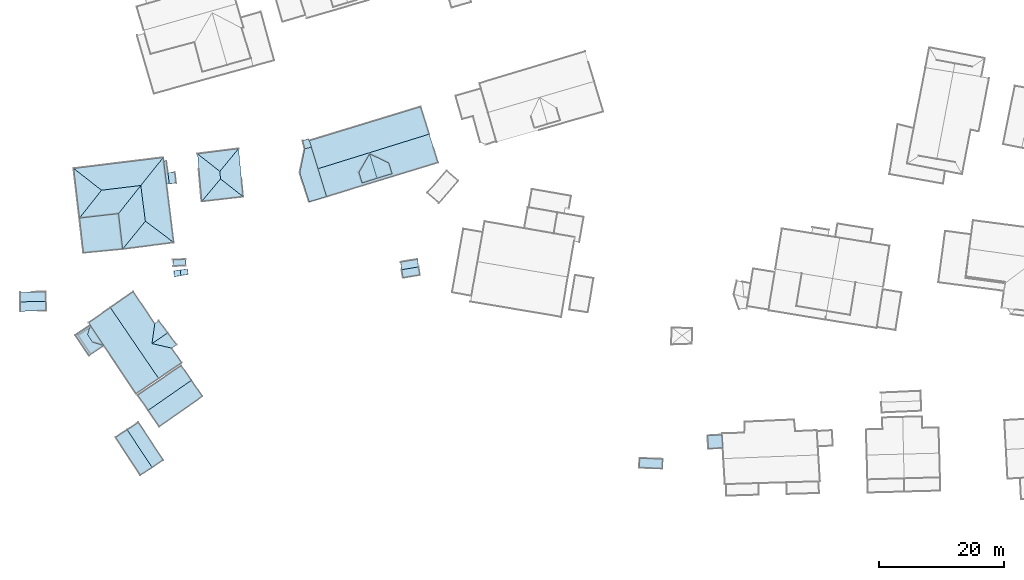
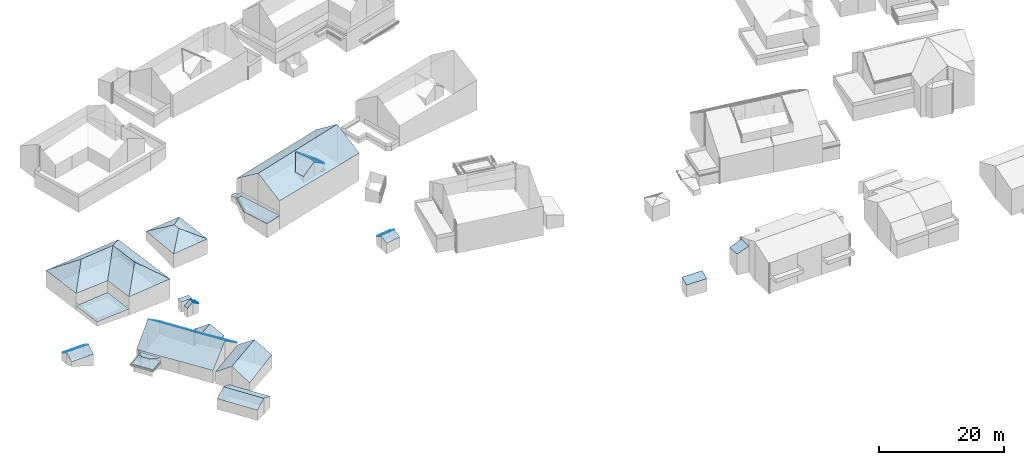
# Not in any storey, part 51 of 57: 77 roofs.
"""IFC4 building model written with IfcOpenShell, lengths in metres."""

from ifc_helpers import new_model, entity, si_unit, converted_unit, frame, origin, place, context, subcontext, project, spatial, face_set, surface_model, element, save


model = new_model("IFC4")

# Units and contexts
model_context = context("Model", 3, precision=1e-05, world=origin())
body_context = subcontext(model_context, "Body", "Model", "MODEL_VIEW")
ifc_project = project(units=[converted_unit("PLANEANGLEUNIT", "DEGREE", entity("IfcRatioMeasure", 0.0174532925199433), si_unit("PLANEANGLEUNIT", "RADIAN"), dimensions=[0, 0, 0, 0, 0, 0, 0]), si_unit("AREAUNIT", "SQUARE_METRE"), si_unit("LENGTHUNIT", "METRE")], contexts=[model_context])

# Site, building
site_placement = place(None, origin())
site = spatial("IfcSite", under=ifc_project, at=site_placement, Name="_site")
building_1_placement = place(site_placement, origin())
building_1 = spatial("IfcBuilding", under=site, at=building_1_placement, Name="_building")

# Roofs
roof_1_placement = place(building_1_placement, origin())
element("IfcRoof", 1, at=roof_1_placement, inside=building_1, Name="Roof", PredefinedType="NOTDEFINED", context=body_context, shape_type="SurfaceModel", body=[
    surface_model("IfcFaceBasedSurfaceModel", [(76.452, 88.018, 115.16), (76.487, 86.506, 114.25), (80.602, 86.62, 114.25), (80.557, 88.122, 115.16)], [face_set([[[0, 1, 2, 3]]])]),
])
roof_2_placement = place(building_1_placement, origin())
element("IfcRoof", 2, at=roof_2_placement, inside=building_1, Name="Roof", PredefinedType="NOTDEFINED", context=body_context, shape_type="SurfaceModel", body=[
    surface_model("IfcFaceBasedSurfaceModel", [(80.557, 88.122, 115.16), (80.523, 89.644, 114.25), (76.408, 89.53, 114.25), (76.452, 88.018, 115.16)], [face_set([[[0, 1, 2, 3]]])]),
])
roof_3_placement = place(building_1_placement, origin())
element("IfcRoof", 3, at=roof_3_placement, inside=building_1, Name="Roof", PredefinedType="NOTDEFINED", context=body_context, shape_type="SurfaceModel", body=[
    surface_model("IfcFaceBasedSurfaceModel", [(76.452, 88.018, 115.16), (76.487, 86.506, 114.25), (80.602, 86.62, 114.25), (80.557, 88.122, 115.16)], [face_set([[[0, 1, 2, 3]]])]),
])
roof_4_placement = place(building_1_placement, origin())
element("IfcRoof", 4, at=roof_4_placement, inside=building_1, Name="Roof", PredefinedType="NOTDEFINED", context=body_context, shape_type="SurfaceModel", body=[
    surface_model("IfcFaceBasedSurfaceModel", [(80.557, 88.122, 115.16), (80.523, 89.644, 114.25), (76.408, 89.53, 114.25), (76.452, 88.018, 115.16)], [face_set([[[0, 1, 2, 3]]])]),
])

# Building
building_2_placement = place(site_placement, origin())
building_2 = spatial("IfcBuilding", under=site, at=building_2_placement, Name="_building")

# Roofs
roof_5_placement = place(building_2_placement, origin())
element("IfcRoof", 5, at=roof_5_placement, inside=building_2, Name="Roof", PredefinedType="NOTDEFINED", context=body_context, shape_type="SurfaceModel", body=[
    surface_model("IfcFaceBasedSurfaceModel", [(93.525, 67.596, 114.93), (91.675, 66.378, 113.98), (95.647, 60.361, 113.98), (97.497, 61.579, 114.93)], [face_set([[[0, 1, 2, 3]]])]),
])
roof_6_placement = place(building_2_placement, origin())
element("IfcRoof", 6, at=roof_6_placement, inside=building_2, Name="Roof", PredefinedType="NOTDEFINED", context=body_context, shape_type="SurfaceModel", body=[
    surface_model("IfcFaceBasedSurfaceModel", [(97.497, 61.579, 114.93), (99.296, 62.768, 113.98), (95.324, 68.784, 113.98), (93.525, 67.596, 114.93)], [face_set([[[0, 1, 2, 3]]])]),
])
roof_7_placement = place(building_2_placement, origin())
element("IfcRoof", 7, at=roof_7_placement, inside=building_2, Name="Roof", PredefinedType="NOTDEFINED", context=body_context, shape_type="SurfaceModel", body=[
    surface_model("IfcFaceBasedSurfaceModel", [(93.525, 67.596, 114.93), (91.675, 66.378, 113.98), (95.647, 60.361, 113.98), (97.497, 61.579, 114.93)], [face_set([[[0, 1, 2, 3]]])]),
])
roof_8_placement = place(building_2_placement, origin())
element("IfcRoof", 8, at=roof_8_placement, inside=building_2, Name="Roof", PredefinedType="NOTDEFINED", context=body_context, shape_type="SurfaceModel", body=[
    surface_model("IfcFaceBasedSurfaceModel", [(97.497, 61.579, 114.93), (99.296, 62.768, 113.98), (95.324, 68.784, 113.98), (93.525, 67.596, 114.93)], [face_set([[[0, 1, 2, 3]]])]),
])

# Building
building_3_placement = place(site_placement, origin())
building_3 = spatial("IfcBuilding", under=site, at=building_3_placement, Name="_building")

# Roofs
for number, where, name in (
    (9, (0.0, 0.0, 0.0), "Roof"),
    (10, (0.0, 0.0, 0.0), "Roof"),
):
    element("IfcRoof", number, at=place(building_3_placement, frame(where)), inside=building_3, Name=name, PredefinedType="NOTDEFINED", context=body_context, shape_type="SurfaceModel", body=[
        surface_model("IfcFaceBasedSurfaceModel", [(100.861, 93.72, 113.01), (102.874, 93.813, 113.01), (102.847, 94.805, 113.01), (100.815, 94.762, 113.01)], [face_set([[[0, 1, 2, 3]]])]),
    ])

# Building
building_4_placement = place(site_placement, origin())
building_4 = spatial("IfcBuilding", under=site, at=building_4_placement, Name="_building")

# Roofs
roof_9_placement = place(building_4_placement, origin())
element("IfcRoof", 11, at=roof_9_placement, inside=building_4, Name="Roof", PredefinedType="NOTDEFINED", context=body_context, shape_type="SurfaceModel", body=[
    surface_model("IfcFaceBasedSurfaceModel", [(121.882, 112.46, 114.43), (122.94, 112.745, 114.43), (122.623, 113.763, 114.36), (122.501, 114.087, 114.36), (121.553, 113.779, 114.39)], [face_set([[[0, 1, 2, 3, 4]]])]),
])
roof_10_placement = place(building_4_placement, origin())
element("IfcRoof", 12, at=roof_10_placement, inside=building_4, Name="Roof", PredefinedType="NOTDEFINED", context=body_context, shape_type="SurfaceModel", body=[
    surface_model("IfcFaceBasedSurfaceModel", [(132.25, 111.657, 120.386), (130.54, 108.705, 118.8), (131.051, 107.022, 118.8), (133.419, 107.757, 120.39)], [face_set([[[0, 1, 2, 3]]])]),
])
roof_11_placement = place(building_4_placement, origin())
element("IfcRoof", 13, at=roof_11_placement, inside=building_4, Name="Roof", PredefinedType="NOTDEFINED", context=body_context, shape_type="SurfaceModel", body=[
    surface_model("IfcFaceBasedSurfaceModel", [(124.001, 109.289, 120.52), (125.376, 104.833, 117.37), (143.174, 110.28, 117.15), (141.77, 114.816, 120.52)], [face_set([[[0, 1, 2, 3]]])]),
])
roof_12_placement = place(building_4_placement, origin())
element("IfcRoof", 14, at=roof_12_placement, inside=building_4, Name="Roof", PredefinedType="NOTDEFINED", context=body_context, shape_type="SurfaceModel", body=[
    surface_model("IfcFaceBasedSurfaceModel", [(141.77, 114.816, 120.52), (140.401, 119.191, 117.29), (122.623, 113.763, 117.28), (122.94, 112.745, 118.02), (124.001, 109.289, 120.52)], [face_set([[[0, 1, 2, 3, 4]]])]),
])
roof_13_placement = place(building_4_placement, origin())
element("IfcRoof", 15, at=roof_13_placement, inside=building_4, Name="Roof", PredefinedType="NOTDEFINED", context=body_context, shape_type="SurfaceModel", body=[
    surface_model("IfcFaceBasedSurfaceModel", [(121.882, 112.46, 114.43), (122.94, 112.745, 114.43), (122.623, 113.763, 114.36), (122.501, 114.087, 114.36), (121.553, 113.779, 114.39)], [face_set([[[0, 1, 2, 3, 4]]])]),
])
roof_14_placement = place(building_4_placement, origin())
element("IfcRoof", 16, at=roof_14_placement, inside=building_4, Name="Roof", PredefinedType="NOTDEFINED", context=body_context, shape_type="SurfaceModel", body=[
    surface_model("IfcFaceBasedSurfaceModel", [(141.77, 114.816, 120.52), (140.401, 119.191, 117.29), (122.623, 113.763, 117.28), (122.94, 112.745, 118.02), (124.001, 109.289, 120.52)], [face_set([[[0, 1, 2, 3, 4]]])]),
])
roof_15_placement = place(building_4_placement, origin())
element("IfcRoof", 17, at=roof_15_placement, inside=building_4, Name="Roof", PredefinedType="NOTDEFINED", context=body_context, shape_type="SurfaceModel", body=[
    surface_model("IfcFaceBasedSurfaceModel", [(124.001, 109.289, 120.52), (125.376, 104.833, 117.37), (143.174, 110.28, 117.15), (141.77, 114.816, 120.52)], [face_set([[[0, 1, 2, 3]]])]),
])
roof_16_placement = place(building_4_placement, origin())
element("IfcRoof", 18, at=roof_16_placement, inside=building_4, Name="Roof", PredefinedType="NOTDEFINED", context=body_context, shape_type="SurfaceModel", body=[
    surface_model("IfcFaceBasedSurfaceModel", [(132.25, 111.657, 120.386), (130.54, 108.705, 118.8), (131.051, 107.022, 118.8), (133.419, 107.757, 120.39)], [face_set([[[0, 1, 2, 3]]])]),
])
roof_17_placement = place(building_4_placement, origin())
element("IfcRoof", 19, at=roof_17_placement, inside=building_4, Name="Roof", PredefinedType="NOTDEFINED", context=body_context, shape_type="SurfaceModel", body=[
    surface_model("IfcFaceBasedSurfaceModel", [(132.25, 111.657, 120.386), (133.419, 107.757, 120.39), (135.828, 108.491, 118.78), (135.318, 110.194, 118.793)], [face_set([[[0, 1, 2, 3]]])]),
])
roof_18_placement = place(building_4_placement, origin())
element("IfcRoof", 20, at=roof_18_placement, inside=building_4, Name="Roof", PredefinedType="NOTDEFINED", context=body_context, shape_type="SurfaceModel", body=[
    surface_model("IfcFaceBasedSurfaceModel", [(133.419, 107.757, 117.57), (135.828, 108.491, 117.558), (135.318, 110.194, 118.793), (132.25, 111.657, 120.399), (130.54, 108.705, 118.796), (131.051, 107.022, 117.574)], [face_set([[[0, 1, 2, 3, 4, 5]]])]),
])
roof_19_placement = place(building_4_placement, origin())
element("IfcRoof", 21, at=roof_19_placement, inside=building_4, Name="Roof", PredefinedType="NOTDEFINED", context=body_context, shape_type="SurfaceModel", body=[
    surface_model("IfcFaceBasedSurfaceModel", [(132.25, 111.657, 120.386), (133.419, 107.757, 120.39), (135.828, 108.491, 118.78), (135.318, 110.194, 118.793)], [face_set([[[0, 1, 2, 3]]])]),
])

# Building
building_5_placement = place(site_placement, origin())
building_5 = spatial("IfcBuilding", under=site, at=building_5_placement, Name="_building")

# Roofs
roof_20_placement = place(building_5_placement, origin())
element("IfcRoof", 22, at=roof_20_placement, inside=building_5, Name="Roof", PredefinedType="NOTDEFINED", context=body_context, shape_type="SurfaceModel", body=[
    surface_model("IfcFaceBasedSurfaceModel", [(124.001, 109.289, 114.491), (122.94, 112.745, 114.43), (121.882, 112.46, 114.43), (121.083, 108.666, 114.43), (122.585, 103.998, 114.45), (125.376, 104.833, 114.57)], [face_set([[[0, 1, 2, 3, 4, 5]]])]),
])
for number, where, name in (
    (23, (0.0, 0.0, 0.0), "Roof"),
    (24, (0.0, 0.0, 0.0), "Roof"),
):
    element("IfcRoof", number, at=place(building_5_placement, frame(where)), inside=building_5, Name=name, PredefinedType="NOTDEFINED", context=body_context, shape_type="SurfaceModel", body=[
        surface_model("IfcFaceBasedSurfaceModel", [(125.376, 104.833, 114.36), (124.001, 109.289, 114.36), (122.94, 112.745, 114.36), (121.882, 112.46, 114.36), (121.083, 108.666, 114.36), (122.585, 103.998, 114.36)], [face_set([[[0, 1, 2, 3, 4, 5]]])]),
    ])
roof_21_placement = place(building_5_placement, origin())
element("IfcRoof", 25, at=roof_21_placement, inside=building_5, Name="Roof", PredefinedType="NOTDEFINED", context=body_context, shape_type="SurfaceModel", body=[
    surface_model("IfcFaceBasedSurfaceModel", [(124.001, 109.289, 114.491), (122.94, 112.745, 114.43), (121.882, 112.46, 114.43), (121.083, 108.666, 114.43), (122.585, 103.998, 114.45), (125.376, 104.833, 114.57)], [face_set([[[0, 1, 2, 3, 4, 5]]])]),
])

# Building
building_6_placement = place(site_placement, origin())
building_6 = spatial("IfcBuilding", under=site, at=building_6_placement, Name="_building")

# Roofs
for number, where, name in (
    (26, (0.0, 0.0, 0.0), "Roof"),
    (27, (0.0, 0.0, 0.0), "Roof"),
):
    element("IfcRoof", number, at=place(building_6_placement, frame(where)), inside=building_6, Name=name, PredefinedType="NOTDEFINED", context=body_context, shape_type="SurfaceModel", body=[
        surface_model("IfcFaceBasedSurfaceModel", [(175.283, 61.519, 109.73), (178.993, 61.402, 109.81), (179.029, 62.922, 110.44), (175.389, 63.048, 110.37)], [face_set([[[0, 1, 2, 3]]])]),
    ])

# Building
building_7_placement = place(site_placement, origin())
building_7 = spatial("IfcBuilding", under=site, at=building_7_placement, Name="_building")

# Roofs
roof_22_placement = place(building_7_placement, origin())
element("IfcRoof", 28, at=roof_22_placement, inside=building_7, Name="Roof", PredefinedType="NOTDEFINED", context=body_context, shape_type="SurfaceModel", body=[
    surface_model("IfcFaceBasedSurfaceModel", [(137.37, 93.166, 113.38), (137.58, 91.87, 112.7), (140.282, 92.307, 112.7), (140.072, 93.603, 113.38)], [face_set([[[0, 1, 2, 3]]])]),
])
roof_23_placement = place(building_7_placement, origin())
element("IfcRoof", 29, at=roof_23_placement, inside=building_7, Name="Roof", PredefinedType="NOTDEFINED", context=body_context, shape_type="SurfaceModel", body=[
    surface_model("IfcFaceBasedSurfaceModel", [(140.072, 93.603, 113.38), (139.871, 94.828, 112.7), (137.179, 94.381, 112.7), (137.37, 93.166, 113.38)], [face_set([[[0, 1, 2, 3]]])]),
])
roof_24_placement = place(building_7_placement, origin())
element("IfcRoof", 30, at=roof_24_placement, inside=building_7, Name="Roof", PredefinedType="NOTDEFINED", context=body_context, shape_type="SurfaceModel", body=[
    surface_model("IfcFaceBasedSurfaceModel", [(137.37, 93.166, 113.38), (137.58, 91.87, 112.7), (140.282, 92.307, 112.7), (140.072, 93.603, 113.38)], [face_set([[[0, 1, 2, 3]]])]),
])
roof_25_placement = place(building_7_placement, origin())
element("IfcRoof", 31, at=roof_25_placement, inside=building_7, Name="Roof", PredefinedType="NOTDEFINED", context=body_context, shape_type="SurfaceModel", body=[
    surface_model("IfcFaceBasedSurfaceModel", [(140.072, 93.603, 113.38), (139.871, 94.828, 112.7), (137.179, 94.381, 112.7), (137.37, 93.166, 113.38)], [face_set([[[0, 1, 2, 3]]])]),
])

# Building
building_8_placement = place(site_placement, origin())
building_8 = spatial("IfcBuilding", under=site, at=building_8_placement, Name="_building")

# Roofs
roof_26_placement = place(building_8_placement, origin())
element("IfcRoof", 32, at=roof_26_placement, inside=building_8, Name="Roof", PredefinedType="NOTDEFINED", context=body_context, shape_type="SurfaceModel", body=[
    surface_model("IfcFaceBasedSurfaceModel", [(96.89, 70.709, 115.81), (98.67, 68.106, 113.56), (105.548, 72.948, 113.7), (103.786, 75.501, 115.71)], [face_set([[[0, 1, 2, 3]]])]),
])
roof_27_placement = place(building_8_placement, origin())
element("IfcRoof", 33, at=roof_27_placement, inside=building_8, Name="Roof", PredefinedType="NOTDEFINED", context=body_context, shape_type="SurfaceModel", body=[
    surface_model("IfcFaceBasedSurfaceModel", [(103.786, 75.501, 115.71), (102.17, 77.85, 113.93), (95.225, 73.129, 113.84), (96.89, 70.709, 115.81)], [face_set([[[0, 1, 2, 3]]])]),
])
roof_28_placement = place(building_8_placement, origin())
element("IfcRoof", 34, at=roof_28_placement, inside=building_8, Name="Roof", PredefinedType="NOTDEFINED", context=body_context, shape_type="SurfaceModel", body=[
    surface_model("IfcFaceBasedSurfaceModel", [(96.89, 70.709, 115.81), (98.67, 68.106, 113.56), (105.548, 72.948, 113.7), (103.786, 75.501, 115.71)], [face_set([[[0, 1, 2, 3]]])]),
])
roof_29_placement = place(building_8_placement, origin())
element("IfcRoof", 35, at=roof_29_placement, inside=building_8, Name="Roof", PredefinedType="NOTDEFINED", context=body_context, shape_type="SurfaceModel", body=[
    surface_model("IfcFaceBasedSurfaceModel", [(103.786, 75.501, 115.71), (102.17, 77.85, 113.93), (95.225, 73.129, 113.84), (96.89, 70.709, 115.81)], [face_set([[[0, 1, 2, 3]]])]),
])

# Building
building_9_placement = place(site_placement, origin())
building_9 = spatial("IfcBuilding", under=site, at=building_9_placement, Name="_building")

# Roofs
roof_30_placement = place(building_9_placement, origin())
element("IfcRoof", 36, at=roof_30_placement, inside=building_9, Name="Roof", PredefinedType="NOTDEFINED", context=body_context, shape_type="SurfaceModel", body=[
    surface_model("IfcFaceBasedSurfaceModel", [(112.047, 104.815, 114.65), (111.317, 112.507, 114.53), (108.32, 108.865, 116.24), (108.432, 107.662, 116.25)], [face_set([[[0, 1, 2, 3]]])]),
])
roof_31_placement = place(building_9_placement, origin())
element("IfcRoof", 37, at=roof_31_placement, inside=building_9, Name="Roof", PredefinedType="NOTDEFINED", context=body_context, shape_type="SurfaceModel", body=[
    surface_model("IfcFaceBasedSurfaceModel", [(108.32, 108.865, 116.24), (111.317, 112.507, 114.53), (104.753, 111.67, 114.54)], [face_set([[[0, 1, 2]]])]),
])
roof_32_placement = place(building_9_placement, origin())
element("IfcRoof", 38, at=roof_32_placement, inside=building_9, Name="Roof", PredefinedType="NOTDEFINED", context=body_context, shape_type="SurfaceModel", body=[
    surface_model("IfcFaceBasedSurfaceModel", [(104.753, 111.67, 114.54), (105.426, 104.06, 114.5), (108.432, 107.662, 116.25), (108.32, 108.865, 116.24)], [face_set([[[0, 1, 2, 3]]])]),
])
roof_33_placement = place(building_9_placement, origin())
element("IfcRoof", 39, at=roof_33_placement, inside=building_9, Name="Roof", PredefinedType="NOTDEFINED", context=body_context, shape_type="SurfaceModel", body=[
    surface_model("IfcFaceBasedSurfaceModel", [(112.047, 104.815, 114.65), (111.317, 112.507, 114.53), (108.32, 108.865, 116.24), (108.432, 107.662, 116.25)], [face_set([[[0, 1, 2, 3]]])]),
])
roof_34_placement = place(building_9_placement, origin())
element("IfcRoof", 40, at=roof_34_placement, inside=building_9, Name="Roof", PredefinedType="NOTDEFINED", context=body_context, shape_type="SurfaceModel", body=[
    surface_model("IfcFaceBasedSurfaceModel", [(108.32, 108.865, 116.24), (111.317, 112.507, 114.53), (104.753, 111.67, 114.54)], [face_set([[[0, 1, 2]]])]),
])
roof_35_placement = place(building_9_placement, origin())
element("IfcRoof", 41, at=roof_35_placement, inside=building_9, Name="Roof", PredefinedType="NOTDEFINED", context=body_context, shape_type="SurfaceModel", body=[
    surface_model("IfcFaceBasedSurfaceModel", [(104.753, 111.67, 114.54), (105.426, 104.06, 114.5), (108.432, 107.662, 116.25), (108.32, 108.865, 116.24)], [face_set([[[0, 1, 2, 3]]])]),
])
for number, where, name in (
    (42, (0.0, 0.0, 0.0), "Roof"),
    (43, (0.0, 0.0, 0.0), "Roof"),
):
    element("IfcRoof", number, at=place(building_9_placement, frame(where)), inside=building_9, Name=name, PredefinedType="NOTDEFINED", context=body_context, shape_type="SurfaceModel", body=[
        surface_model("IfcFaceBasedSurfaceModel", [(108.432, 107.662, 116.25), (105.426, 104.06, 114.5), (112.047, 104.815, 114.65)], [face_set([[[0, 1, 2]]])]),
    ])

# Building
building_10_placement = place(site_placement, origin())
building_10 = spatial("IfcBuilding", under=site, at=building_10_placement, Name="_building")

# Roofs
for number, where, name in (
    (44, (0.0, 0.0, 0.0), "Roof"),
    (45, (0.0, 0.0, 0.0), "Roof"),
):
    element("IfcRoof", number, at=place(building_10_placement, frame(where)), inside=building_10, Name=name, PredefinedType="NOTDEFINED", context=body_context, shape_type="SurfaceModel", body=[
        surface_model("IfcFaceBasedSurfaceModel", [(102.116, 92.22, 113.4), (103.272, 92.413, 112.68), (103.142, 93.277, 112.68), (101.977, 93.114, 113.4)], [face_set([[[0, 1, 2, 3]]])]),
    ])
for number, where, name in (
    (46, (0.0, 0.0, 0.0), "Roof"),
    (47, (0.0, 0.0, 0.0), "Roof"),
):
    element("IfcRoof", number, at=place(building_10_placement, frame(where)), inside=building_10, Name=name, PredefinedType="NOTDEFINED", context=body_context, shape_type="SurfaceModel", body=[
        surface_model("IfcFaceBasedSurfaceModel", [(101.977, 93.114, 113.4), (100.953, 92.967, 112.68), (101.031, 92.035, 112.69), (102.116, 92.22, 113.4)], [face_set([[[0, 1, 2, 3]]])]),
    ])

# Building
building_11_placement = place(site_placement, origin())
building_11 = spatial("IfcBuilding", under=site, at=building_11_placement, Name="_building")

# Roofs
roof_36_placement = place(building_11_placement, origin())
element("IfcRoof", 48, at=roof_36_placement, inside=building_11, Name="Roof", PredefinedType="NOTDEFINED", context=body_context, shape_type="SurfaceModel", body=[
    surface_model("IfcFaceBasedSurfaceModel", [(89.807, 81.051, 113.09), (87.632, 84.304, 113.09), (85.253, 82.709, 113.09), (87.429, 79.456, 113.09)], [face_set([[[0, 1, 2, 3]]])]),
])
roof_37_placement = place(building_11_placement, origin())
element("IfcRoof", 49, at=roof_37_placement, inside=building_11, Name="Roof", PredefinedType="NOTDEFINED", context=body_context, shape_type="SurfaceModel", body=[
    surface_model("IfcFaceBasedSurfaceModel", [(87.785, 84.079, 113.659), (87.519, 83.901, 113.659), (87.207, 82.793, 113.76), (88.029, 81.573, 113.76), (89.811, 81.05, 113.659)], [face_set([[[0, 1, 2, 3, 4]]])]),
])
roof_38_placement = place(building_11_placement, origin())
element("IfcRoof", 50, at=roof_38_placement, inside=building_11, Name="Roof", PredefinedType="NOTDEFINED", context=body_context, shape_type="SurfaceModel", body=[
    surface_model("IfcFaceBasedSurfaceModel", [(89.807, 81.051, 113.09), (87.632, 84.304, 113.09), (85.253, 82.709, 113.09), (87.429, 79.456, 113.09)], [face_set([[[0, 1, 2, 3]]])]),
])
roof_39_placement = place(building_11_placement, origin())
element("IfcRoof", 51, at=roof_39_placement, inside=building_11, Name="Roof", PredefinedType="NOTDEFINED", context=body_context, shape_type="SurfaceModel", body=[
    surface_model("IfcFaceBasedSurfaceModel", [(87.785, 84.079, 113.659), (87.519, 83.901, 113.659), (87.207, 82.793, 113.76), (88.029, 81.573, 113.76), (89.811, 81.05, 113.659)], [face_set([[[0, 1, 2, 3, 4]]])]),
])

# Building
building_12_placement = place(site_placement, origin())
building_12 = spatial("IfcBuilding", under=site, at=building_12_placement, Name="_building")

# Roofs
for number, where, name in (
    (52, (0.0, 0.0, 0.0), "Roof"),
    (53, (0.0, 0.0, 0.0), "Roof"),
):
    element("IfcRoof", number, at=place(building_12_placement, frame(where)), inside=building_12, Name=name, PredefinedType="NOTDEFINED", context=body_context, shape_type="SurfaceModel", body=[
        surface_model("IfcFaceBasedSurfaceModel", [(188.656, 64.698, 110.74), (188.535, 66.802, 110.92), (186.221, 66.667, 110.16), (186.341, 64.562, 110.06)], [face_set([[[0, 1, 2, 3]]])]),
    ])

# Building
building_13_placement = place(site_placement, origin())
building_13 = spatial("IfcBuilding", under=site, at=building_13_placement, Name="_building")

# Roofs
roof_40_placement = place(building_13_placement, origin())
element("IfcRoof", 54, at=roof_40_placement, inside=building_13, Name="Roof", PredefinedType="NOTDEFINED", context=body_context, shape_type="SurfaceModel", body=[
    surface_model("IfcFaceBasedSurfaceModel", [(85.911, 101.405, 115.27), (92.142, 102.12, 115.12), (95.699, 106.609, 118.02), (89.428, 105.855, 118.0)], [face_set([[[0, 1, 2, 3]]])]),
])
roof_41_placement = place(building_13_placement, origin())
element("IfcRoof", 55, at=roof_41_placement, inside=building_13, Name="Roof", PredefinedType="NOTDEFINED", context=body_context, shape_type="SurfaceModel", body=[
    surface_model("IfcFaceBasedSurfaceModel", [(89.428, 105.855, 118.0), (95.699, 106.609, 118.02), (99.286, 111.078, 115.18), (84.976, 109.332, 115.27)], [face_set([[[0, 1, 2, 3]]])]),
])
roof_42_placement = place(building_13_placement, origin())
element("IfcRoof", 56, at=roof_42_placement, inside=building_13, Name="Roof", PredefinedType="NOTDEFINED", context=body_context, shape_type="SurfaceModel", body=[
    surface_model("IfcFaceBasedSurfaceModel", [(92.142, 102.12, 115.12), (92.81, 96.46, 115.18), (96.426, 100.908, 118.02), (95.699, 106.609, 118.02)], [face_set([[[0, 1, 2, 3]]])]),
])
roof_43_placement = place(building_13_placement, origin())
element("IfcRoof", 57, at=roof_43_placement, inside=building_13, Name="Roof", PredefinedType="NOTDEFINED", context=body_context, shape_type="SurfaceModel", body=[
    surface_model("IfcFaceBasedSurfaceModel", [(101.143, 108.753, 111.65), (100.029, 108.619, 112.69), (99.793, 110.496, 112.69), (99.361, 110.436, 112.69), (99.817, 106.823, 112.69), (100.248, 106.873, 112.69), (101.352, 107.007, 111.65)], [face_set([[[0, 1, 2, 3, 4, 5, 6]]])]),
])
roof_44_placement = place(building_13_placement, origin())
element("IfcRoof", 58, at=roof_44_placement, inside=building_13, Name="Roof", PredefinedType="NOTDEFINED", context=body_context, shape_type="SurfaceModel", body=[
    surface_model("IfcFaceBasedSurfaceModel", [(89.428, 105.855, 118.0), (84.976, 109.332, 115.27), (85.911, 101.405, 115.27)], [face_set([[[0, 1, 2]]])]),
])
roof_45_placement = place(building_13_placement, origin())
element("IfcRoof", 59, at=roof_45_placement, inside=building_13, Name="Roof", PredefinedType="NOTDEFINED", context=body_context, shape_type="SurfaceModel", body=[
    surface_model("IfcFaceBasedSurfaceModel", [(100.969, 97.5, 115.18), (99.286, 111.078, 115.18), (95.699, 106.609, 118.02), (96.426, 100.908, 118.02)], [face_set([[[0, 1, 2, 3]]])]),
])
roof_46_placement = place(building_13_placement, origin())
element("IfcRoof", 60, at=roof_46_placement, inside=building_13, Name="Roof", PredefinedType="NOTDEFINED", context=body_context, shape_type="SurfaceModel", body=[
    surface_model("IfcFaceBasedSurfaceModel", [(96.426, 100.908, 118.02), (92.81, 96.46, 115.18), (100.969, 97.5, 115.18)], [face_set([[[0, 1, 2]]])]),
])
roof_47_placement = place(building_13_placement, origin())
element("IfcRoof", 61, at=roof_47_placement, inside=building_13, Name="Roof", PredefinedType="NOTDEFINED", context=body_context, shape_type="SurfaceModel", body=[
    surface_model("IfcFaceBasedSurfaceModel", [(85.911, 101.405, 115.27), (92.142, 102.12, 115.12), (95.699, 106.609, 118.02), (89.428, 105.855, 118.0)], [face_set([[[0, 1, 2, 3]]])]),
])
roof_48_placement = place(building_13_placement, origin())
element("IfcRoof", 62, at=roof_48_placement, inside=building_13, Name="Roof", PredefinedType="NOTDEFINED", context=body_context, shape_type="SurfaceModel", body=[
    surface_model("IfcFaceBasedSurfaceModel", [(100.969, 97.5, 115.18), (99.286, 111.078, 115.18), (95.699, 106.609, 118.02), (96.426, 100.908, 118.02)], [face_set([[[0, 1, 2, 3]]])]),
])
roof_49_placement = place(building_13_placement, origin())
element("IfcRoof", 63, at=roof_49_placement, inside=building_13, Name="Roof", PredefinedType="NOTDEFINED", context=body_context, shape_type="SurfaceModel", body=[
    surface_model("IfcFaceBasedSurfaceModel", [(89.428, 105.855, 118.0), (95.699, 106.609, 118.02), (99.286, 111.078, 115.18), (84.976, 109.332, 115.27)], [face_set([[[0, 1, 2, 3]]])]),
])
roof_50_placement = place(building_13_placement, origin())
element("IfcRoof", 64, at=roof_50_placement, inside=building_13, Name="Roof", PredefinedType="NOTDEFINED", context=body_context, shape_type="SurfaceModel", body=[
    surface_model("IfcFaceBasedSurfaceModel", [(101.143, 108.753, 111.65), (100.029, 108.619, 112.69), (99.793, 110.496, 112.69), (99.361, 110.436, 112.69), (99.817, 106.823, 112.69), (100.248, 106.873, 112.69), (101.352, 107.007, 111.65)], [face_set([[[0, 1, 2, 3, 4, 5, 6]]])]),
])
roof_51_placement = place(building_13_placement, origin())
element("IfcRoof", 65, at=roof_51_placement, inside=building_13, Name="Roof", PredefinedType="NOTDEFINED", context=body_context, shape_type="SurfaceModel", body=[
    surface_model("IfcFaceBasedSurfaceModel", [(89.428, 105.855, 118.0), (84.976, 109.332, 115.27), (85.911, 101.405, 115.27)], [face_set([[[0, 1, 2]]])]),
])
roof_52_placement = place(building_13_placement, origin())
element("IfcRoof", 66, at=roof_52_placement, inside=building_13, Name="Roof", PredefinedType="NOTDEFINED", context=body_context, shape_type="SurfaceModel", body=[
    surface_model("IfcFaceBasedSurfaceModel", [(92.142, 102.12, 115.12), (92.81, 96.46, 115.18), (96.426, 100.908, 118.02), (95.699, 106.609, 118.02)], [face_set([[[0, 1, 2, 3]]])]),
])
for number, where, name in (
    (67, (0.0, 0.0, 0.0), "Roof"),
    (68, (0.0, 0.0, 0.0), "Roof"),
):
    element("IfcRoof", number, at=place(building_13_placement, frame(where)), inside=building_13, Name=name, PredefinedType="NOTDEFINED", context=body_context, shape_type="SurfaceModel", body=[
        surface_model("IfcFaceBasedSurfaceModel", [(92.81, 96.46, 112.83), (92.142, 102.12, 112.83), (85.911, 101.405, 112.83), (86.542, 95.857, 112.83)], [face_set([[[0, 1, 2, 3]]])]),
    ])
roof_53_placement = place(building_13_placement, origin())
element("IfcRoof", 69, at=roof_53_placement, inside=building_13, Name="Roof", PredefinedType="NOTDEFINED", context=body_context, shape_type="SurfaceModel", body=[
    surface_model("IfcFaceBasedSurfaceModel", [(96.426, 100.908, 118.02), (92.81, 96.46, 115.18), (100.969, 97.5, 115.18)], [face_set([[[0, 1, 2]]])]),
])

# Building
building_14_placement = place(site_placement, origin())
building_14 = spatial("IfcBuilding", under=site, at=building_14_placement, Name="_building")

# Roofs
roof_54_placement = place(building_14_placement, origin())
element("IfcRoof", 70, at=roof_54_placement, inside=building_14, Name="Roof", PredefinedType="NOTDEFINED", context=body_context, shape_type="SurfaceModel", body=[
    surface_model("IfcFaceBasedSurfaceModel", [(98.54, 75.803, 117.13), (102.231, 78.299, 113.97), (100.654, 80.627, 113.95), (97.48, 81.362, 115.53), (97.934, 84.533, 113.95), (94.502, 89.656, 113.95), (90.84, 87.101, 117.13)], [face_set([[[0, 1, 2, 3, 4, 5, 6]]])]),
])
roof_55_placement = place(building_14_placement, origin())
element("IfcRoof", 71, at=roof_55_placement, inside=building_14, Name="Roof", PredefinedType="NOTDEFINED", context=body_context, shape_type="SurfaceModel", body=[
    surface_model("IfcFaceBasedSurfaceModel", [(97.48, 81.362, 115.53), (100.011, 83.083, 115.53), (98.566, 85.029, 113.95), (97.934, 84.533, 113.95)], [face_set([[[0, 1, 2, 3]]])]),
])
roof_56_placement = place(building_14_placement, origin())
element("IfcRoof", 72, at=roof_56_placement, inside=building_14, Name="Roof", PredefinedType="NOTDEFINED", context=body_context, shape_type="SurfaceModel", body=[
    surface_model("IfcFaceBasedSurfaceModel", [(97.48, 81.362, 115.53), (100.654, 80.627, 113.95), (101.437, 81.159, 113.95), (100.011, 83.083, 115.53)], [face_set([[[0, 1, 2, 3]]])]),
])
roof_57_placement = place(building_14_placement, origin())
element("IfcRoof", 73, at=roof_57_placement, inside=building_14, Name="Roof", PredefinedType="NOTDEFINED", context=body_context, shape_type="SurfaceModel", body=[
    surface_model("IfcFaceBasedSurfaceModel", [(90.84, 87.101, 117.13), (87.381, 84.68, 113.95), (87.632, 84.305, 113.954), (87.785, 84.079, 113.957), (89.811, 81.05, 113.992), (91.595, 78.388, 114.022), (94.951, 73.376, 114.08), (98.54, 75.803, 117.13)], [face_set([[[0, 1, 2, 3, 4, 5, 6, 7]]])]),
])
roof_58_placement = place(building_14_placement, origin())
element("IfcRoof", 74, at=roof_58_placement, inside=building_14, Name="Roof", PredefinedType="NOTDEFINED", context=body_context, shape_type="SurfaceModel", body=[
    surface_model("IfcFaceBasedSurfaceModel", [(98.54, 75.803, 117.13), (102.231, 78.299, 113.97), (100.654, 80.627, 113.95), (97.48, 81.362, 115.53), (97.934, 84.533, 113.95), (94.502, 89.656, 113.95), (90.84, 87.101, 117.13)], [face_set([[[0, 1, 2, 3, 4, 5, 6]]])]),
])
roof_59_placement = place(building_14_placement, origin())
element("IfcRoof", 75, at=roof_59_placement, inside=building_14, Name="Roof", PredefinedType="NOTDEFINED", context=body_context, shape_type="SurfaceModel", body=[
    surface_model("IfcFaceBasedSurfaceModel", [(97.48, 81.362, 115.53), (100.011, 83.083, 115.53), (98.566, 85.029, 113.95), (97.934, 84.533, 113.95)], [face_set([[[0, 1, 2, 3]]])]),
])
roof_60_placement = place(building_14_placement, origin())
element("IfcRoof", 76, at=roof_60_placement, inside=building_14, Name="Roof", PredefinedType="NOTDEFINED", context=body_context, shape_type="SurfaceModel", body=[
    surface_model("IfcFaceBasedSurfaceModel", [(97.48, 81.362, 115.53), (100.654, 80.627, 113.95), (101.437, 81.159, 113.95), (100.011, 83.083, 115.53)], [face_set([[[0, 1, 2, 3]]])]),
])
roof_61_placement = place(building_14_placement, origin())
element("IfcRoof", 77, at=roof_61_placement, inside=building_14, Name="Roof", PredefinedType="NOTDEFINED", context=body_context, shape_type="SurfaceModel", body=[
    surface_model("IfcFaceBasedSurfaceModel", [(90.84, 87.101, 117.13), (87.381, 84.68, 113.95), (87.632, 84.305, 113.954), (87.785, 84.079, 113.957), (89.811, 81.05, 113.992), (91.595, 78.388, 114.022), (94.951, 73.376, 114.08), (98.54, 75.803, 117.13)], [face_set([[[0, 1, 2, 3, 4, 5, 6, 7]]])]),
])

save(model, "model.ifc")
